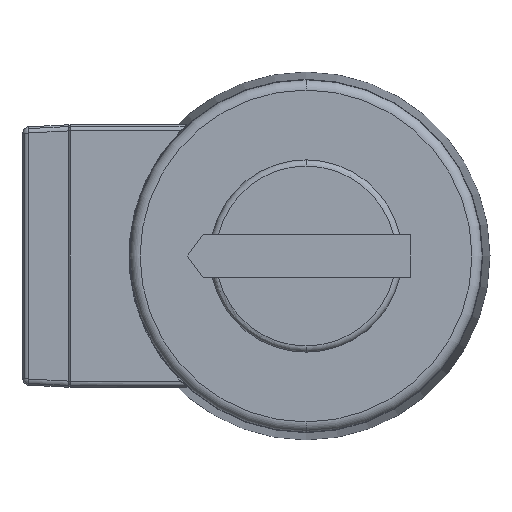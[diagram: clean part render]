
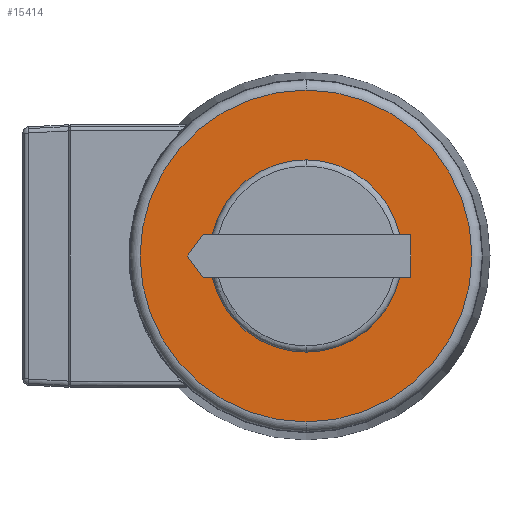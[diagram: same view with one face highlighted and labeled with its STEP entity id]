
A CAD part, front view. The second image highlights one B-rep face of the part: STEP entity #15414.
In plain terms, the highlighted planar face has unit normal (0, -1, 0).
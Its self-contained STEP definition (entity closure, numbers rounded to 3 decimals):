
#15192=CARTESIAN_POINT('',(0.,-358.728,-80.269));
#15193=VERTEX_POINT('',#15192);
#15210=CARTESIAN_POINT('',(0.,-358.728,80.269));
#15211=VERTEX_POINT('',#15210);
#15219=CARTESIAN_POINT('',(0.,-358.728,0.));
#15220=DIRECTION('',(0.0,1.0,0.0));
#15221=DIRECTION('',(0.0,0.0,1.0));
#15222=AXIS2_PLACEMENT_3D('',#15219,#15220,#15221);
#15223=CIRCLE('',#15222,80.269);
#15224=EDGE_CURVE('',#15211,#15193,#15223,.T.);
#15393=CARTESIAN_POINT('',(0.,-358.728,0.));
#15394=DIRECTION('',(0.0,1.0,0.0));
#15395=DIRECTION('',(0.0,0.0,1.0));
#15396=AXIS2_PLACEMENT_3D('',#15393,#15394,#15395);
#15397=CIRCLE('',#15396,80.269);
#15398=EDGE_CURVE('',#15193,#15211,#15397,.T.);
#15405=CARTESIAN_POINT('',(0.,-358.728,0.));
#15406=DIRECTION('',(0.0,1.0,0.0));
#15407=DIRECTION('',(0.0,0.0,-1.0));
#15408=AXIS2_PLACEMENT_3D('',#15405,#15406,#15407);
#15409=PLANE('',#15408);
#15410=ORIENTED_EDGE('',*,*,#15398,.F.);
#15411=ORIENTED_EDGE('',*,*,#15224,.F.);
#15412=EDGE_LOOP('',(#15410,#15411));
#15413=FACE_OUTER_BOUND('',#15412,.T.);
#15414=ADVANCED_FACE('',(#15413),#15409,.F.);
